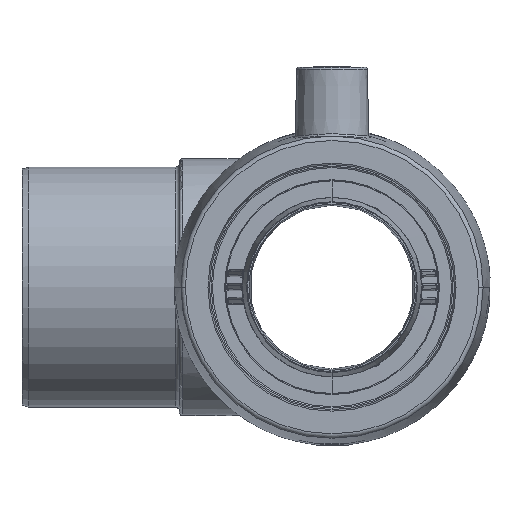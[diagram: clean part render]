
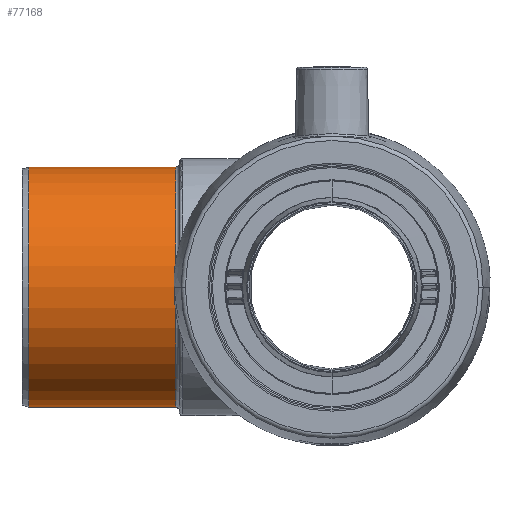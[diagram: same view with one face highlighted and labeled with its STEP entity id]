
A CAD part, left-side view. The second image highlights one B-rep face of the part: STEP entity #77168.
In plain terms, the highlighted cylindrical face has radius 27.1 mm (diameter 54.2 mm), a partial arc.
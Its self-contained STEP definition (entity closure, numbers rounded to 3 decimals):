
#757 = EDGE_CURVE ( 'NONE', #17445, #42648, #81152, .T. ) ;
#4815 = CARTESIAN_POINT ( 'NONE',  ( 0., 68.5, -27.1 ) ) ;
#5526 = ORIENTED_EDGE ( 'NONE', *, *, #47893, .T. ) ;
#6427 = ORIENTED_EDGE ( 'NONE', *, *, #58681, .T. ) ;
#9534 = AXIS2_PLACEMENT_3D ( 'NONE', #26861, #20651, #41359 ) ;
#11458 = CARTESIAN_POINT ( 'NONE',  ( 0., 68.5, 27.1 ) ) ;
#13529 = ORIENTED_EDGE ( 'NONE', *, *, #757, .T. ) ;
#14330 = VERTEX_POINT ( 'NONE', #4815 ) ;
#17259 = LINE ( 'NONE', #63810, #49135 ) ;
#17445 = VERTEX_POINT ( 'NONE', #79752 ) ;
#19476 = VECTOR ( 'NONE', #27589, 1000. ) ;
#20651 = DIRECTION ( 'NONE',  ( 0., 1., 0. ) ) ;
#20719 = DIRECTION ( 'NONE',  ( 0., -1., 0. ) ) ;
#26861 = CARTESIAN_POINT ( 'NONE',  ( 0., 35.3, 0. ) ) ;
#27319 = DIRECTION ( 'NONE',  ( 0., 0., 1. ) ) ;
#27589 = DIRECTION ( 'NONE',  ( 0., -1., 0. ) ) ;
#28579 = AXIS2_PLACEMENT_3D ( 'NONE', #78993, #66936, #35754 ) ;
#35754 = DIRECTION ( 'NONE',  ( 0., 0., -1. ) ) ;
#38271 = VERTEX_POINT ( 'NONE', #11458 ) ;
#38821 = AXIS2_PLACEMENT_3D ( 'NONE', #72225, #20719, #27319 ) ;
#41359 = DIRECTION ( 'NONE',  ( 0., 0., 1. ) ) ;
#42617 = CARTESIAN_POINT ( 'NONE',  ( 0., 35.3, 27.1 ) ) ;
#42648 = VERTEX_POINT ( 'NONE', #42617 ) ;
#47893 = EDGE_CURVE ( 'NONE', #38271, #14330, #53406, .T. ) ;
#49135 = VECTOR ( 'NONE', #75839, 1000. ) ;
#53406 = CIRCLE ( 'NONE', #38821, 27.1 ) ;
#58681 = EDGE_CURVE ( 'NONE', #14330, #17445, #17259, .T. ) ;
#62547 = EDGE_LOOP ( 'NONE', ( #71060, #5526, #6427, #13529 ) ) ;
#63810 = CARTESIAN_POINT ( 'NONE',  ( 0., 70., -27.1 ) ) ;
#64921 = CYLINDRICAL_SURFACE ( 'NONE', #28579, 27.1 ) ;
#66936 = DIRECTION ( 'NONE',  ( 0., -1., 0. ) ) ;
#70485 = CARTESIAN_POINT ( 'NONE',  ( 0., 70., 27.1 ) ) ;
#71060 = ORIENTED_EDGE ( 'NONE', *, *, #80208, .F. ) ;
#72081 = LINE ( 'NONE', #70485, #19476 ) ;
#72225 = CARTESIAN_POINT ( 'NONE',  ( 0., 68.5, 0. ) ) ;
#75839 = DIRECTION ( 'NONE',  ( 0., -1., 0. ) ) ;
#77168 = ADVANCED_FACE ( 'NONE', ( #77380 ), #64921, .T. ) ;
#77380 = FACE_OUTER_BOUND ( 'NONE', #62547, .T. ) ;
#78993 = CARTESIAN_POINT ( 'NONE',  ( 0., 70., 0. ) ) ;
#79752 = CARTESIAN_POINT ( 'NONE',  ( 0., 35.3, -27.1 ) ) ;
#80208 = EDGE_CURVE ( 'NONE', #38271, #42648, #72081, .T. ) ;
#81152 = CIRCLE ( 'NONE', #9534, 27.1 ) ;
